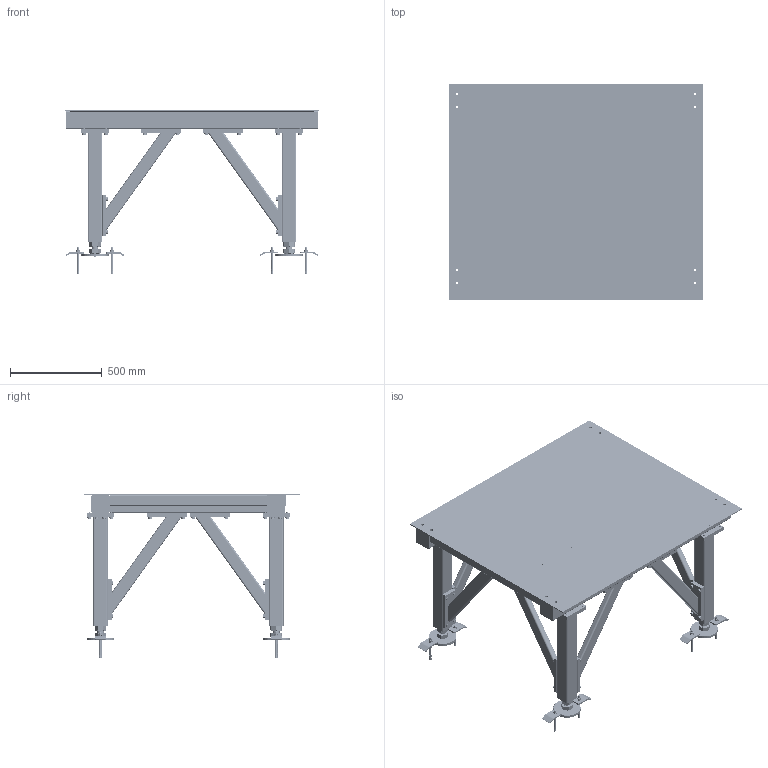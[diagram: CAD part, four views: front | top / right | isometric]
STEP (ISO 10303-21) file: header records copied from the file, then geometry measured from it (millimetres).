
FILE_DESCRIPTION (( 'STEP AP214' ), '1' );
FILE_NAME ('FAU-GCVP01-01.STEP', '2024-09-26T07:24:24', ( '' ), ( '' ), 'SwSTEP 2.0', 'SolidWorks 2017', '' );
FILE_SCHEMA (( 'AUTOMOTIVE_DESIGN' ));
Length unit declared in the file: millimetre
Products named in the file (19): Z-M10 assy; FAU-GCVP01-05_1<Brut d''usinage>; Z-Washer_WASHER M 10; FAU-GCVP01-08_1; GCVP01 A CACHER; Z-vis h _m36x140; Z-Screw_H_SCREW H M10x30-26; FAU-GCVP01-07_DWG; FAU-GCVP01-07; FAU-GCVP01-03-04; FAU-GCVP01-08; FAU-GCVP01-01_DWG; Z-Hilti Cheville M12; FAU-GCVP01-02_D‚faut<Brut d''usinage>; FAU-GCVP01-06_600 TAC<Brut d''usinage>; FAU-GCVP01-03-04 inox_inox; FAU-GCVP01-05_2-2; FAU-GCVP01-01; Z-ecrou_din934_m36-10
Assembly tree (74 placements, depth 5):
  FAU-GCVP01-01
    FAU-GCVP01-01_DWG
      FAU-GCVP01-02_D‚faut<Brut d''usinage>
      FAU-GCVP01-05_2-2  x4
        FAU-GCVP01-05_1<Brut d''usinage>
        Z-M10 assy
          Z-Screw_H_SCREW H M10x30-26
          Z-Washer_WASHER M 10
        FAU-GCVP01-06_600 TAC<Brut d''usinage>
        FAU-GCVP01-07_DWG
          Z-vis h _m36x140
          Z-ecrou_din934_m36-10
          FAU-GCVP01-07
      FAU-GCVP01-08_1  x4
        Z-Hilti Cheville M12
        GCVP01 A CACHER
        FAU-GCVP01-08
      FAU-GCVP01-03-04
      Z-M10 assy  x32
        Z-Screw_H_SCREW H M10x30-26
        Z-Washer_WASHER M 10
      FAU-GCVP01-03-04 inox_inox
Bounding box: 1384.25 x 1180 x 897.5 mm (x, y, z)
Volume: 36144627.1 mm3; surface area: 17697980.4 mm2
Topology: 305 solids, 305 shells, 4319 faces, 10146 edges, 6582 vertices
Faces by surface type: plane 1953, cylinder 1686, cone 672, bspline 8
Entity records: 38562 total; most frequent: CARTESIAN_POINT 7064, DIRECTION 6174, ORIENTED_EDGE 5506, EDGE_CURVE 2753, AXIS2_PLACEMENT_3D 2405, VERTEX_POINT 1801, EDGE_LOOP 1456, LINE 1364
